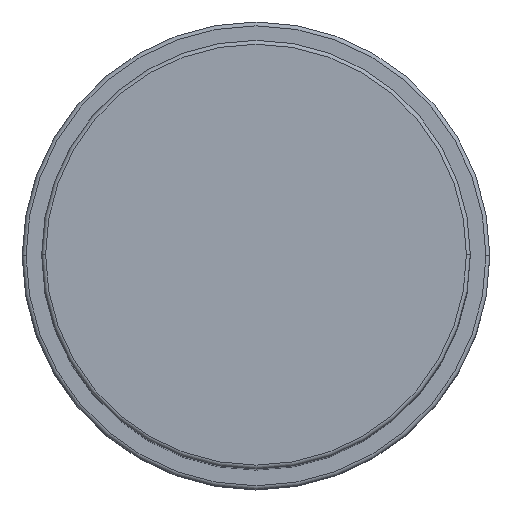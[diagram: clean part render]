
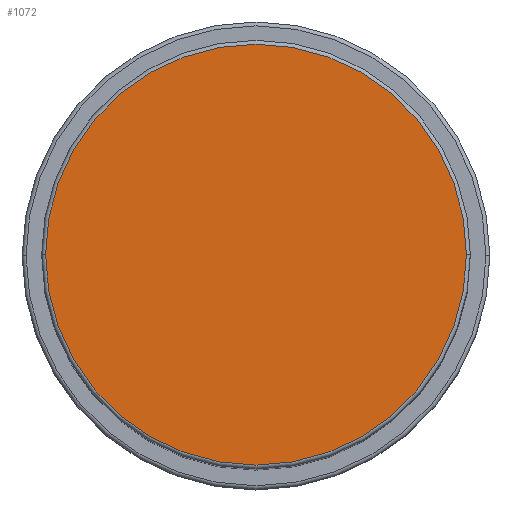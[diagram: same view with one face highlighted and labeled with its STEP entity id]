
A CAD part, top view. The second image highlights one B-rep face of the part: STEP entity #1072.
In plain terms, the highlighted planar face has unit normal (0, 0, 1).
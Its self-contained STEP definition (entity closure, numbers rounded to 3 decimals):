
#54 = AXIS2_PLACEMENT_3D ( 'NONE', #815, #1579, #211 ) ;
#65 = CIRCLE ( 'NONE', #1871, 27. ) ;
#169 = EDGE_CURVE ( 'NONE', #1913, #1358, #65, .T. ) ;
#211 = DIRECTION ( 'NONE',  ( 1., 0., 0. ) ) ;
#226 = CARTESIAN_POINT ( 'NONE',  ( 0., 0., 111. ) ) ;
#330 = ORIENTED_EDGE ( 'NONE', *, *, #169, .T. ) ;
#345 = DIRECTION ( 'NONE',  ( 0., 0., 1. ) ) ;
#380 = DIRECTION ( 'NONE',  ( 0., 0., 1. ) ) ;
#485 = CARTESIAN_POINT ( 'NONE',  ( 0., 0., 111. ) ) ;
#622 = CARTESIAN_POINT ( 'NONE',  ( -27., 0., 111. ) ) ;
#729 = CIRCLE ( 'NONE', #54, 27. ) ;
#778 = DIRECTION ( 'NONE',  ( 1., 0., 0. ) ) ;
#790 = ORIENTED_EDGE ( 'NONE', *, *, #1131, .T. ) ;
#791 = PLANE ( 'NONE',  #1040 ) ;
#815 = CARTESIAN_POINT ( 'NONE',  ( 0., 0., 111. ) ) ;
#1040 = AXIS2_PLACEMENT_3D ( 'NONE', #485, #345, #778 ) ;
#1072 = ADVANCED_FACE ( 'NONE', ( #1461 ), #791, .T. ) ;
#1131 = EDGE_CURVE ( 'NONE', #1358, #1913, #729, .T. ) ;
#1358 = VERTEX_POINT ( 'NONE', #622 ) ;
#1461 = FACE_OUTER_BOUND ( 'NONE', #1729, .T. ) ;
#1579 = DIRECTION ( 'NONE',  ( 0., 0., 1. ) ) ;
#1725 = DIRECTION ( 'NONE',  ( 1., 0., 0. ) ) ;
#1729 = EDGE_LOOP ( 'NONE', ( #330, #790 ) ) ;
#1786 = CARTESIAN_POINT ( 'NONE',  ( 27., 0., 111. ) ) ;
#1871 = AXIS2_PLACEMENT_3D ( 'NONE', #226, #380, #1725 ) ;
#1913 = VERTEX_POINT ( 'NONE', #1786 ) ;
